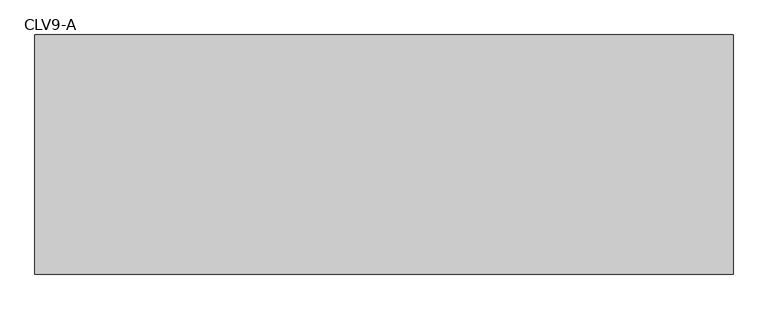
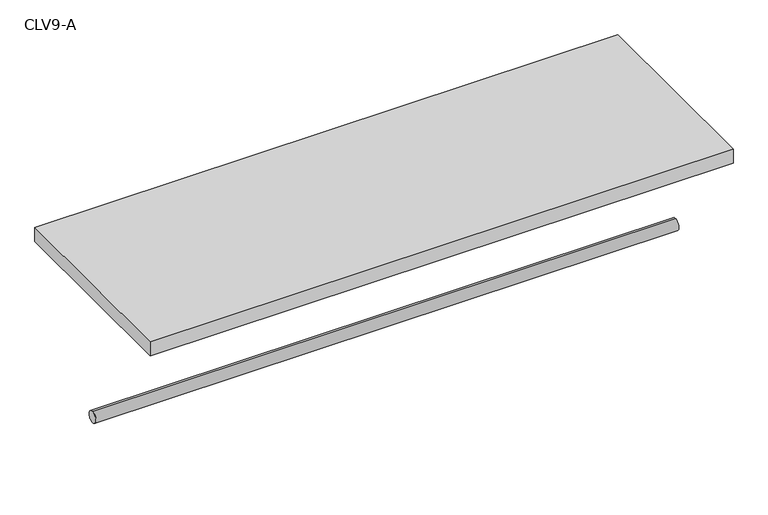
"""IFC4 building model written with IfcOpenShell, lengths in millimetres: furniture geometry, 1tubo_maletero_0lateral : CLV9-A."""

from ifc_helpers import new_model, si_unit, point, frame, frame_2d, origin, place, context, project, spatial, polyline, circle_curve, trimmed, segment, composite_curve, outline, extrude, source, transform, mapped, element, save


def clv9_a_947992f8(model_context):
    return source(origin(), model_context, "Body", "SweptSolid", [
        extrude(outline(composite_curve([segment(trimmed(circle_curve(frame_2d((350.0, 1800.0)), 15.0), [point((350.0, 1815.0))], [point((350.0, 1785.0))], False, "CARTESIAN"), True, "CONTINUOUS"), segment(trimmed(circle_curve(frame_2d((350.0, 1800.0)), 15.0), [point((350.0, 1785.0))], [point((350.0, 1815.0))], False, "CARTESIAN"), True, "CONTINUOUS")], self_intersect=False)), frame((-1620.0, 0.0, 0.0), z_axis=(1.0, 0.0, 0.0), x_axis=(0.0, 1.0, 0.0)), (0.0, 0.0, 1.0), 1460.0),
        extrude(outline(polyline([(-160.0, 100.0), (-1620.0, 100.0), (-1620.0, 600.0), (-160.0, 600.0), (-160.0, 100.0)])), frame((0.0, 0.0, 2114.0), z_axis=(0.0, 0.0, 1.0), x_axis=(1.0, 0.0, 0.0)), (0.0, 0.0, 1.0), 36.0),
    ])


if __name__ == "__main__":
    model = new_model("IFC4")
    model_context = context("Model", 3, world=origin())
    ifc_project = project(units=[si_unit("LENGTHUNIT", "METRE", prefix="MILLI")], contexts=[model_context])
    site = spatial("IfcSite", under=ifc_project)
    building = spatial("IfcBuilding", under=site)
    placement = place(None, origin())
    clv9_a_shape = clv9_a_947992f8(model_context)
    element("IfcFurniture", 1, ObjectType="1tubo_maletero_0lateral : CLV9-A", at=placement, inside=building, context=model_context, shape_type="MappedRepresentation", body=[
        mapped(clv9_a_shape, transform((0.0, 0.0, 0.0), x_axis=(1.0, 0.0, 0.0), y_axis=(0.0, 1.0, 0.0), z_axis=(0.0, 0.0, 1.0))),
    ])
    save(model, "model.ifc")
